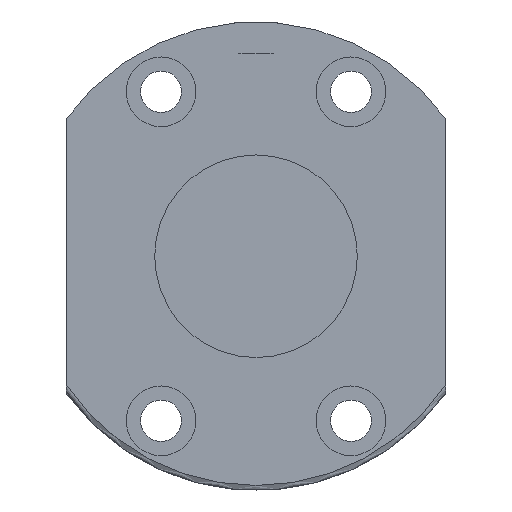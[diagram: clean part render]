
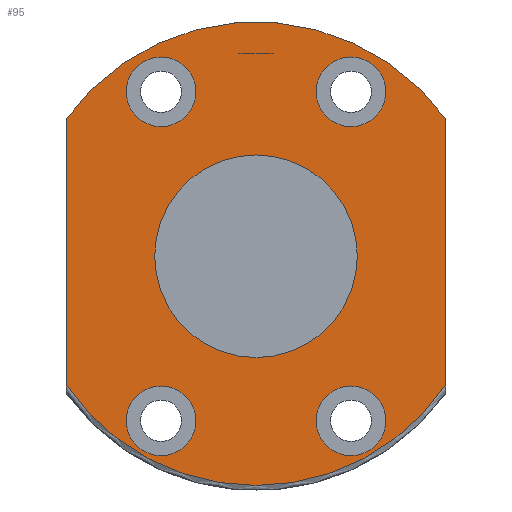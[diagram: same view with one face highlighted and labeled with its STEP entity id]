
A CAD part, front view. The second image highlights one B-rep face of the part: STEP entity #95.
In plain terms, the highlighted planar face has unit normal (0, -1, 0).
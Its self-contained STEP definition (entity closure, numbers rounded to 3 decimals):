
#31=LINE('',#630,#39);
#36=LINE('',#696,#44);
#39=VECTOR('',#506,1.);
#44=VECTOR('',#519,1.);
#71=PLANE('',#456);
#95=ADVANCED_FACE('',(#136,#137,#138,#139,#140,#141),#71,.F.);
#136=FACE_BOUND('',#191,.T.);
#137=FACE_BOUND('',#192,.T.);
#138=FACE_BOUND('',#193,.T.);
#139=FACE_BOUND('',#194,.T.);
#140=FACE_BOUND('',#195,.T.);
#141=FACE_BOUND('',#196,.T.);
#191=EDGE_LOOP('',(#265));
#192=EDGE_LOOP('',(#266));
#193=EDGE_LOOP('',(#267));
#194=EDGE_LOOP('',(#268));
#195=EDGE_LOOP('',(#269,#270,#271,#272));
#196=EDGE_LOOP('',(#273));
#265=ORIENTED_EDGE('',*,*,#382,.T.);
#266=ORIENTED_EDGE('',*,*,#383,.T.);
#267=ORIENTED_EDGE('',*,*,#384,.T.);
#268=ORIENTED_EDGE('',*,*,#385,.T.);
#269=ORIENTED_EDGE('',*,*,#373,.F.);
#270=ORIENTED_EDGE('',*,*,#386,.T.);
#271=ORIENTED_EDGE('',*,*,#363,.F.);
#272=ORIENTED_EDGE('',*,*,#379,.F.);
#273=ORIENTED_EDGE('',*,*,#380,.F.);
#326=VERTEX_POINT('',#631);
#327=VERTEX_POINT('',#632);
#334=VERTEX_POINT('',#695);
#335=VERTEX_POINT('',#697);
#339=VERTEX_POINT('',#782);
#341=VERTEX_POINT('',#787);
#342=VERTEX_POINT('',#789);
#343=VERTEX_POINT('',#791);
#344=VERTEX_POINT('',#793);
#363=EDGE_CURVE('',#326,#327,#31,.T.);
#373=EDGE_CURVE('',#334,#335,#36,.T.);
#379=EDGE_CURVE('',#335,#326,#409,.T.);
#380=EDGE_CURVE('',#339,#339,#410,.T.);
#382=EDGE_CURVE('',#341,#341,#412,.T.);
#383=EDGE_CURVE('',#342,#342,#413,.T.);
#384=EDGE_CURVE('',#343,#343,#414,.T.);
#385=EDGE_CURVE('',#344,#344,#415,.T.);
#386=EDGE_CURVE('',#334,#327,#416,.T.);
#409=CIRCLE('',#446,37.);
#410=CIRCLE('',#448,16.);
#412=CIRCLE('',#451,5.5);
#413=CIRCLE('',#452,5.5);
#414=CIRCLE('',#453,5.5);
#415=CIRCLE('',#454,5.5);
#416=CIRCLE('',#455,36.2);
#446=AXIS2_PLACEMENT_3D('',#779,#526,#527);
#448=AXIS2_PLACEMENT_3D('',#781,#530,#531);
#451=AXIS2_PLACEMENT_3D('',#786,#536,#537);
#452=AXIS2_PLACEMENT_3D('',#788,#538,#539);
#453=AXIS2_PLACEMENT_3D('',#790,#540,#541);
#454=AXIS2_PLACEMENT_3D('',#792,#542,#543);
#455=AXIS2_PLACEMENT_3D('',#794,#544,#545);
#456=AXIS2_PLACEMENT_3D('',#795,#546,#547);
#506=DIRECTION('',(0.,0.,-1.));
#519=DIRECTION('',(0.,0.,1.));
#526=DIRECTION('',(0.,1.,0.));
#527=DIRECTION('',(1.,0.,0.));
#530=DIRECTION('',(0.,-1.,0.));
#531=DIRECTION('',(1.,0.,0.));
#536=DIRECTION('',(0.,1.,0.));
#537=DIRECTION('',(0.,0.,1.));
#538=DIRECTION('',(0.,1.,0.));
#539=DIRECTION('',(0.,0.,1.));
#540=DIRECTION('',(0.,1.,0.));
#541=DIRECTION('',(0.,0.,1.));
#542=DIRECTION('',(0.,1.,0.));
#543=DIRECTION('',(0.,0.,1.));
#544=DIRECTION('',(0.,-1.,0.));
#545=DIRECTION('',(0.,0.,1.));
#546=DIRECTION('',(0.,1.,0.));
#547=DIRECTION('',(0.,0.,1.));
#630=CARTESIAN_POINT('',(30.,-24.461,21.656));
#631=CARTESIAN_POINT('',(30.,-24.461,21.656));
#632=CARTESIAN_POINT('',(30.,-24.461,-20.259));
#695=CARTESIAN_POINT('',(-30.,-24.461,-20.259));
#696=CARTESIAN_POINT('',(-30.,-24.461,-21.656));
#697=CARTESIAN_POINT('',(-30.,-24.461,21.656));
#779=CARTESIAN_POINT('',(0.,-24.461,0.));
#781=CARTESIAN_POINT('',(0.,-24.461,0.));
#782=CARTESIAN_POINT('',(16.,-24.461,0.));
#786=CARTESIAN_POINT('',(15.,-24.461,-25.981));
#787=CARTESIAN_POINT('',(15.,-24.461,-20.481));
#788=CARTESIAN_POINT('',(-15.,-24.461,-25.981));
#789=CARTESIAN_POINT('',(-15.,-24.461,-20.481));
#790=CARTESIAN_POINT('',(15.,-24.461,25.981));
#791=CARTESIAN_POINT('',(15.,-24.461,31.481));
#792=CARTESIAN_POINT('',(-15.,-24.461,25.981));
#793=CARTESIAN_POINT('',(-15.,-24.461,31.481));
#794=CARTESIAN_POINT('',(0.,-24.461,0.));
#795=CARTESIAN_POINT('',(0.,-24.461,0.));
